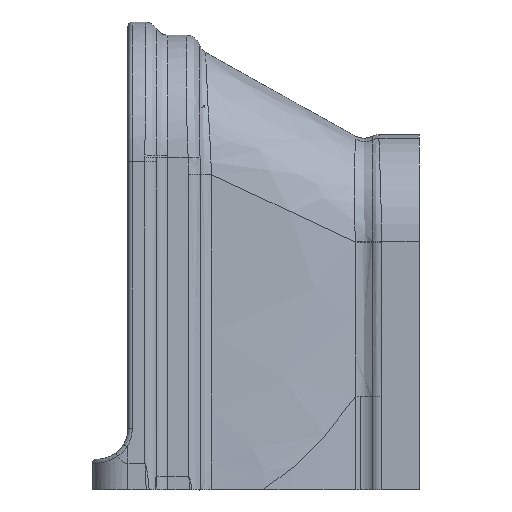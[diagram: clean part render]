
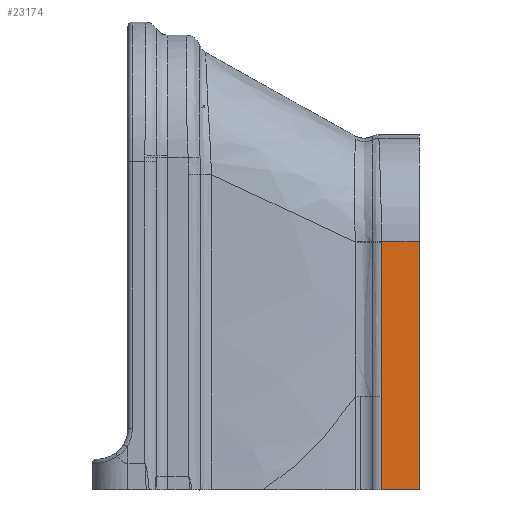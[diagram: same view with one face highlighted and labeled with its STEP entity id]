
A CAD part, left-side view. The second image highlights one B-rep face of the part: STEP entity #23174.
In plain terms, the highlighted planar face has unit normal (-1, 0, 0).
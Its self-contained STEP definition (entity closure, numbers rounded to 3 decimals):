
#2833 = CARTESIAN_POINT ( 'NONE',  ( -3022.358, -1348.665, -2601.088 ) ) ;
#5042 = EDGE_LOOP ( 'NONE', ( #40323, #46669, #7416, #78589, #8069, #72874, #72518 ) ) ;
#6291 = EDGE_CURVE ( 'NONE', #80233, #67379, #33434, .T. ) ;
#6963 = VECTOR ( 'NONE', #8282, 1000. ) ;
#7234 = AXIS2_PLACEMENT_3D ( 'NONE', #46242, #50435, #40164 ) ;
#7416 = ORIENTED_EDGE ( 'NONE', *, *, #6291, .T. ) ;
#7631 = CARTESIAN_POINT ( 'NONE',  ( -3022.358, -1348.817, -2426.161 ) ) ;
#8069 = ORIENTED_EDGE ( 'NONE', *, *, #57224, .T. ) ;
#8282 = DIRECTION ( 'NONE',  ( 0., 1., 0. ) ) ;
#8819 = CARTESIAN_POINT ( 'NONE',  ( -3022.358, -1348.819, -2425.371 ) ) ;
#9441 = DIRECTION ( 'NONE',  ( 0., 1., 0. ) ) ;
#11545 = LINE ( 'NONE', #71692, #25234 ) ;
#13714 = EDGE_CURVE ( 'NONE', #42611, #44635, #11545, .T. ) ;
#15844 = CARTESIAN_POINT ( 'NONE',  ( -3022.358, -1348.738, -2484.47 ) ) ;
#15939 = CARTESIAN_POINT ( 'NONE',  ( -3022.358, -1348.817, -2426.161 ) ) ;
#16257 = PLANE ( 'NONE',  #7234 ) ;
#18039 = CARTESIAN_POINT ( 'NONE',  ( -3022.358, -1391.813, -2706.813 ) ) ;
#21637 = VECTOR ( 'NONE', #9441, 1000. ) ;
#21640 = CARTESIAN_POINT ( 'NONE',  ( -3022.358, -1061.813, -2706.813 ) ) ;
#22636 = B_SPLINE_CURVE_WITH_KNOTS ( 'NONE', 3,
 ( #30969, #32149, #49586, #75514 ),
 .UNSPECIFIED., .F., .F.,
 ( 4, 4 ),
 ( 0., 0. ),
 .UNSPECIFIED. ) ;
#23174 = ADVANCED_FACE ( 'NONE', ( #42782 ), #16257, .T. ) ;
#25234 = VECTOR ( 'NONE', #55331, 1000. ) ;
#29434 = B_SPLINE_CURVE_WITH_KNOTS ( 'NONE', 3,
 ( #64528, #40571, #15844, #58425, #35314, #2833 ),
 .UNSPECIFIED., .F., .F.,
 ( 4, 2, 4 ),
 ( 0., 0.087, 0.175 ),
 .UNSPECIFIED. ) ;
#30612 = DIRECTION ( 'NONE',  ( 0., 0., -1. ) ) ;
#30969 = CARTESIAN_POINT ( 'NONE',  ( -3022.358, -1348.82, -2425.289 ) ) ;
#31801 = CARTESIAN_POINT ( 'NONE',  ( -3022.358, -1348.665, -2706.813 ) ) ;
#31961 = VERTEX_POINT ( 'NONE', #15939 ) ;
#32149 = CARTESIAN_POINT ( 'NONE',  ( -3022.358, -1348.819, -2425.316 ) ) ;
#33434 = LINE ( 'NONE', #40310, #6963 ) ;
#35314 = CARTESIAN_POINT ( 'NONE',  ( -3022.358, -1348.665, -2571.934 ) ) ;
#36475 = B_SPLINE_CURVE_WITH_KNOTS ( 'NONE', 3,
 ( #77094, #46260, #64941, #7631 ),
 .UNSPECIFIED., .F., .F.,
 ( 4, 4 ),
 ( 0., 0.001 ),
 .UNSPECIFIED. ) ;
#37436 = EDGE_CURVE ( 'NONE', #31961, #42611, #29434, .T. ) ;
#39053 = EDGE_CURVE ( 'NONE', #66658, #44635, #65030, .T. ) ;
#40164 = DIRECTION ( 'NONE',  ( 0., 1., 0. ) ) ;
#40310 = CARTESIAN_POINT ( 'NONE',  ( -3022.358, -1421.813, -2425.289 ) ) ;
#40323 = ORIENTED_EDGE ( 'NONE', *, *, #39053, .F. ) ;
#40571 = CARTESIAN_POINT ( 'NONE',  ( -3022.358, -1348.775, -2455.316 ) ) ;
#41543 = CARTESIAN_POINT ( 'NONE',  ( -3022.358, -1348.82, -2425.289 ) ) ;
#42611 = VERTEX_POINT ( 'NONE', #55421 ) ;
#42782 = FACE_OUTER_BOUND ( 'NONE', #5042, .T. ) ;
#44635 = VERTEX_POINT ( 'NONE', #31801 ) ;
#46242 = CARTESIAN_POINT ( 'NONE',  ( -3022.358, -1421.813, -2706.813 ) ) ;
#46260 = CARTESIAN_POINT ( 'NONE',  ( -3022.358, -1348.818, -2425.634 ) ) ;
#46669 = ORIENTED_EDGE ( 'NONE', *, *, #61668, .F. ) ;
#48029 = LINE ( 'NONE', #18039, #49654 ) ;
#49586 = CARTESIAN_POINT ( 'NONE',  ( -3022.358, -1348.819, -2425.343 ) ) ;
#49654 = VECTOR ( 'NONE', #30612, 1000. ) ;
#50435 = DIRECTION ( 'NONE',  ( -1., 0., 0. ) ) ;
#55331 = DIRECTION ( 'NONE',  ( 0., 0., -1. ) ) ;
#55421 = CARTESIAN_POINT ( 'NONE',  ( -3022.358, -1348.665, -2601.088 ) ) ;
#56458 = CARTESIAN_POINT ( 'NONE',  ( -3022.358, -1391.813, -2706.813 ) ) ;
#57224 = EDGE_CURVE ( 'NONE', #57383, #31961, #36475, .T. ) ;
#57383 = VERTEX_POINT ( 'NONE', #8819 ) ;
#58425 = CARTESIAN_POINT ( 'NONE',  ( -3022.358, -1348.684, -2542.779 ) ) ;
#61668 = EDGE_CURVE ( 'NONE', #80233, #66658, #48029, .T. ) ;
#64428 = CARTESIAN_POINT ( 'NONE',  ( -3022.358, -1391.813, -2425.289 ) ) ;
#64528 = CARTESIAN_POINT ( 'NONE',  ( -3022.358, -1348.817, -2426.161 ) ) ;
#64941 = CARTESIAN_POINT ( 'NONE',  ( -3022.358, -1348.818, -2425.898 ) ) ;
#65030 = LINE ( 'NONE', #21640, #21637 ) ;
#66658 = VERTEX_POINT ( 'NONE', #56458 ) ;
#67379 = VERTEX_POINT ( 'NONE', #41543 ) ;
#71692 = CARTESIAN_POINT ( 'NONE',  ( -3022.358, -1348.665, -2706.812 ) ) ;
#72518 = ORIENTED_EDGE ( 'NONE', *, *, #13714, .T. ) ;
#72874 = ORIENTED_EDGE ( 'NONE', *, *, #37436, .T. ) ;
#75514 = CARTESIAN_POINT ( 'NONE',  ( -3022.358, -1348.819, -2425.371 ) ) ;
#76585 = EDGE_CURVE ( 'NONE', #67379, #57383, #22636, .T. ) ;
#77094 = CARTESIAN_POINT ( 'NONE',  ( -3022.358, -1348.819, -2425.371 ) ) ;
#78589 = ORIENTED_EDGE ( 'NONE', *, *, #76585, .T. ) ;
#80233 = VERTEX_POINT ( 'NONE', #64428 ) ;
